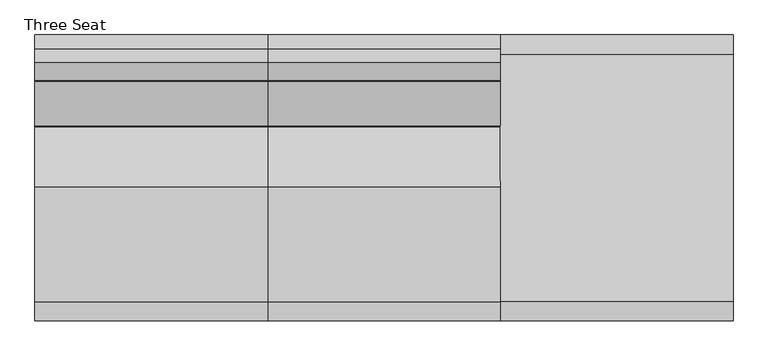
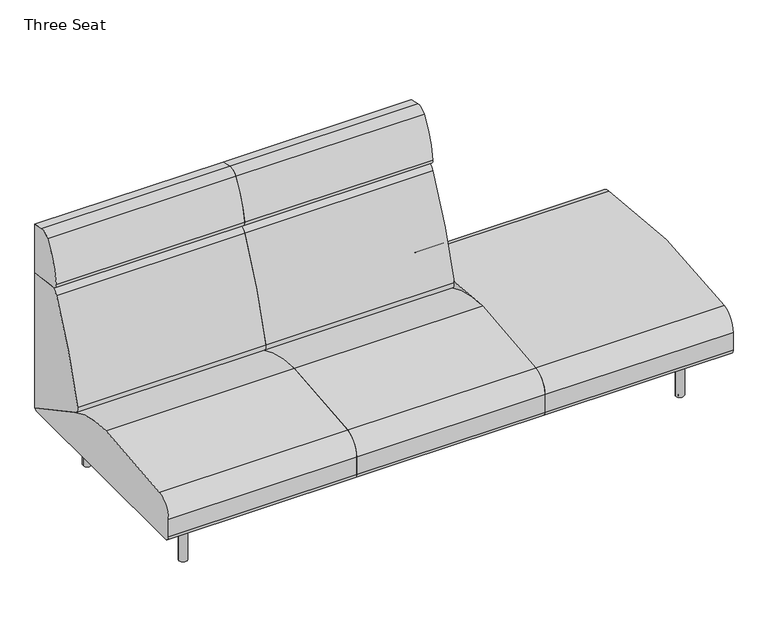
"""IFC4 building model written with IfcOpenShell, lengths in millimetres: furniture geometry, Coalesse_AM_Seating_LoungeChair_Sistema_LegBase_ThreeSeat : Three Seat."""

from ifc_helpers import new_model, si_unit, point, frame, frame_2d, origin, origin_with_axes, place, context, project, spatial, polyline, circle_curve, trimmed, segment, composite_curve, outline, extrude, source, transform, mapped, element, save


def three_seat_5b71b5bf(model_context):
    return source(origin(), model_context, "Body", "SweptSolid", [
        extrude(outline(composite_curve([segment(polyline([(459.4795619, 985.4592709), (459.4795619, 780.845009), (327.9700683, 799.327463)]), True, "CONTINUOUS"), segment(trimmed(circle_curve(frame_2d((330.6213159, 818.1920697)), 19.05), [point((327.9700683, 799.327463))], [point((311.7521971, 820.8110119))], False, "CARTESIAN"), True, "CONTINUOUS"), segment(trimmed(circle_curve(frame_2d((679.5815991, 769.7580741)), 371.3554516), [point((311.7521971, 820.8110119))], [point((372.1246101, 978.0249014))], False, "CARTESIAN"), True, "CONTINUOUS"), segment(trimmed(circle_curve(frame_2d((405.8944569, 955.1497055)), 40.7881985), [point((372.1246101, 978.0249014))], [point((414.3748002, 995.046584))], False, "CARTESIAN"), True, "CONTINUOUS"), segment(polyline([(414.3748002, 995.046584), (459.4795619, 985.4592709)]), True, "CONTINUOUS")], self_intersect=False)), frame((-374.8034773, 0.0, 0.0), z_axis=(1.0, 0.0, 0.0), x_axis=(0.0, 1.0, 0.0)), (0.0, 0.0, 1.0), 749.3),
        extrude(outline(composite_curve([segment(polyline([(459.4795619, 780.845009), (459.4795619, 228.1929806)]), True, "CONTINUOUS"), segment(trimmed(circle_curve(frame_2d((191.495971, 228.1929806)), 267.983591), [point((459.4795619, 228.1929806))], [point((458.9860775, 211.937276))], False, "CARTESIAN"), True, "CONTINUOUS"), segment(polyline([(458.9860775, 211.937276), (177.4990556, 364.1028799)]), True, "CONTINUOUS"), segment(trimmed(circle_curve(frame_2d((189.5778307, 386.4470781)), 25.4), [point((177.4990556, 364.1028799))], [point((164.9600055, 392.7018911))], False, "CARTESIAN"), True, "CONTINUOUS"), segment(trimmed(circle_curve(frame_2d((1918.112812, -52.7331923)), 1808.8552115), [point((164.9600055, 392.7018911))], [point((310.2880264, 776.0349508))], False, "CARTESIAN"), True, "CONTINUOUS"), segment(trimmed(circle_curve(frame_2d((344.1537133, 758.5785695)), 38.1), [point((310.2880264, 776.0349508))], [point((349.4562085, 796.3077829))], False, "CARTESIAN"), True, "CONTINUOUS"), segment(polyline([(349.4562085, 796.3077829), (459.4795619, 780.845009)]), True, "CONTINUOUS")], self_intersect=False)), frame((-374.8034773, 0.0, 0.0), z_axis=(1.0, 0.0, 0.0), x_axis=(0.0, 1.0, 0.0)), (0.0, 0.0, 1.0), 749.3),
        extrude(outline(composite_curve([segment(trimmed(circle_curve(frame_2d((-438.9184381, 226.822)), 22.352), [point((-438.9184381, 204.47))], [point((-461.2704381, 226.822))], False, "CARTESIAN"), True, "CONTINUOUS"), segment(polyline([(-461.2704381, 226.822), (-461.2704381, 301.4421993)]), True, "CONTINUOUS"), segment(trimmed(circle_curve(frame_2d((-385.0704381, 301.4421993)), 76.2), [point((-461.2704381, 301.4421993))], [point((-398.9277015, 376.3716077))], False, "CARTESIAN"), True, "CONTINUOUS"), segment(trimmed(circle_curve(frame_2d((2.2103559, -1792.6740646)), 2205.8265729), [point((-398.9277015, 376.3716077))], [point((-31.1968175, 412.8995185))], False, "CARTESIAN"), True, "CONTINUOUS"), segment(trimmed(circle_curve(frame_2d((-24.5128424, -28.3829182)), 441.333054), [point((-31.1968175, 412.8995185))], [point((184.5757008, 360.2774035))], False, "CARTESIAN"), True, "CONTINUOUS"), segment(polyline([(184.5757008, 360.2774035), (458.9860775, 211.937276)]), True, "CONTINUOUS"), segment(trimmed(circle_curve(frame_2d((442.3266309, 226.7871991)), 22.3171991), [point((458.9860775, 211.937276))], [point((442.3266309, 204.47))], False, "CARTESIAN"), True, "CONTINUOUS"), segment(polyline([(442.3266309, 204.47), (-438.9184381, 204.47)]), True, "CONTINUOUS")], self_intersect=False)), frame((-374.8034773, 0.0, 0.0), z_axis=(1.0, 0.0, 0.0), x_axis=(0.0, 1.0, 0.0)), (0.0, 0.0, 1.0), 749.3),
        extrude(outline(composite_curve([segment(polyline([(459.4795619, 985.4592709), (459.4795619, 780.845009), (327.9700683, 799.327463)]), True, "CONTINUOUS"), segment(trimmed(circle_curve(frame_2d((330.6213159, 818.1920697)), 19.05), [point((327.9700683, 799.327463))], [point((311.7521971, 820.8110119))], False, "CARTESIAN"), True, "CONTINUOUS"), segment(trimmed(circle_curve(frame_2d((679.5815991, 769.7580741)), 371.3554516), [point((311.7521971, 820.8110119))], [point((372.1246101, 978.0249014))], False, "CARTESIAN"), True, "CONTINUOUS"), segment(trimmed(circle_curve(frame_2d((405.8944569, 955.1497055)), 40.7881985), [point((372.1246101, 978.0249014))], [point((414.3748002, 995.046584))], False, "CARTESIAN"), True, "CONTINUOUS"), segment(polyline([(414.3748002, 995.046584), (459.4795619, 985.4592709)]), True, "CONTINUOUS")], self_intersect=False)), frame((374.4965227, 0.0, 0.0), z_axis=(1.0, 0.0, 0.0), x_axis=(0.0, 1.0, 0.0)), (0.0, 0.0, 1.0), 749.3),
        extrude(outline(composite_curve([segment(polyline([(459.4795619, 780.845009), (459.4795619, 228.1929806)]), True, "CONTINUOUS"), segment(trimmed(circle_curve(frame_2d((191.495971, 228.1929806)), 267.983591), [point((459.4795619, 228.1929806))], [point((458.9860775, 211.937276))], False, "CARTESIAN"), True, "CONTINUOUS"), segment(polyline([(458.9860775, 211.937276), (177.4990556, 364.1028799)]), True, "CONTINUOUS"), segment(trimmed(circle_curve(frame_2d((189.5778307, 386.4470781)), 25.4), [point((177.4990556, 364.1028799))], [point((164.9600055, 392.7018911))], False, "CARTESIAN"), True, "CONTINUOUS"), segment(trimmed(circle_curve(frame_2d((1918.112812, -52.7331923)), 1808.8552115), [point((164.9600055, 392.7018911))], [point((310.2880264, 776.0349508))], False, "CARTESIAN"), True, "CONTINUOUS"), segment(trimmed(circle_curve(frame_2d((344.1537133, 758.5785695)), 38.1), [point((310.2880264, 776.0349508))], [point((349.4562085, 796.3077829))], False, "CARTESIAN"), True, "CONTINUOUS"), segment(polyline([(349.4562085, 796.3077829), (459.4795619, 780.845009)]), True, "CONTINUOUS")], self_intersect=False)), frame((374.4965227, 0.0, 0.0), z_axis=(1.0, 0.0, 0.0), x_axis=(0.0, 1.0, 0.0)), (0.0, 0.0, 1.0), 749.3),
        extrude(outline(composite_curve([segment(trimmed(circle_curve(frame_2d((-438.9184381, 226.822)), 22.352), [point((-438.9184381, 204.47))], [point((-461.2704381, 226.822))], False, "CARTESIAN"), True, "CONTINUOUS"), segment(polyline([(-461.2704381, 226.822), (-461.2704381, 301.4421993)]), True, "CONTINUOUS"), segment(trimmed(circle_curve(frame_2d((-385.0704381, 301.4421993)), 76.2), [point((-461.2704381, 301.4421993))], [point((-398.9277015, 376.3716077))], False, "CARTESIAN"), True, "CONTINUOUS"), segment(trimmed(circle_curve(frame_2d((2.2103559, -1792.6740646)), 2205.8265729), [point((-398.9277015, 376.3716077))], [point((-31.1968175, 412.8995185))], False, "CARTESIAN"), True, "CONTINUOUS"), segment(trimmed(circle_curve(frame_2d((-24.5128424, -28.3829182)), 441.333054), [point((-31.1968175, 412.8995185))], [point((184.5757008, 360.2774035))], False, "CARTESIAN"), True, "CONTINUOUS"), segment(polyline([(184.5757008, 360.2774035), (458.9860775, 211.937276)]), True, "CONTINUOUS"), segment(trimmed(circle_curve(frame_2d((442.3266309, 226.7871991)), 22.3171991), [point((458.9860775, 211.937276))], [point((442.3266309, 204.47))], False, "CARTESIAN"), True, "CONTINUOUS"), segment(polyline([(442.3266309, 204.47), (-438.9184381, 204.47)]), True, "CONTINUOUS")], self_intersect=False)), frame((374.4965227, 0.0, 0.0), z_axis=(1.0, 0.0, 0.0), x_axis=(0.0, 1.0, 0.0)), (0.0, 0.0, 1.0), 749.3),
        extrude(outline(composite_curve([segment(trimmed(circle_curve(frame_2d((-438.9184381, 226.822)), 22.352), [point((-438.9184381, 204.47))], [point((-461.2704381, 226.822))], False, "CARTESIAN"), True, "CONTINUOUS"), segment(polyline([(-461.2704381, 226.822), (-461.2704381, 301.4421993)]), True, "CONTINUOUS"), segment(trimmed(circle_curve(frame_2d((-385.0704381, 301.4421993)), 76.2), [point((-461.2704381, 301.4421993))], [point((-398.9279534, 376.3715612))], False, "CARTESIAN"), True, "CONTINUOUS"), segment(trimmed(circle_curve(frame_2d((-0.3717831, -1778.6727457)), 2191.5891461), [point((-398.9279534, 376.3715612))], [point((397.0993513, 376.5719464))], False, "CARTESIAN"), True, "CONTINUOUS"), segment(trimmed(circle_curve(frame_2d((383.2795619, 301.6356173)), 76.2), [point((397.0993513, 376.5719464))], [point((459.4795619, 301.6356173))], False, "CARTESIAN"), True, "CONTINUOUS"), segment(polyline([(459.4795619, 301.6356173), (459.4795619, 226.7871991)]), True, "CONTINUOUS"), segment(trimmed(circle_curve(frame_2d((437.1623628, 226.7871991)), 22.3171991), [point((459.4795619, 226.7871991))], [point((437.1623628, 204.47))], False, "CARTESIAN"), True, "CONTINUOUS"), segment(polyline([(437.1623628, 204.47), (-438.9184381, 204.47)]), True, "CONTINUOUS")], self_intersect=False)), frame((1123.7965227, 0.0, 0.0), z_axis=(1.0, 0.0, 0.0), x_axis=(0.0, 1.0, 0.0)), (0.0, 0.0, 1.0), 749.3),
        extrude(outline(composite_curve([segment(trimmed(circle_curve(frame_2d((1738.4765227, 335.9943389)), 6.096), [point((1744.5725227, 335.9943389))], [point((1732.3805227, 335.9943389))], False, "CARTESIAN"), True, "CONTINUOUS"), segment(trimmed(circle_curve(frame_2d((1738.4765227, 335.9943389)), 6.096), [point((1732.3805227, 335.9943389))], [point((1744.5725227, 335.9943389))], False, "CARTESIAN"), True, "CONTINUOUS")], self_intersect=False)), origin_with_axes(), (0.0, 0.0, 1.0), 4.3662291),
        extrude(outline(composite_curve([segment(trimmed(circle_curve(frame_2d((1738.4765227, -327.2630889)), 6.096), [point((1744.5725227, -327.2630889))], [point((1732.3805227, -327.2630889))], False, "CARTESIAN"), True, "CONTINUOUS"), segment(trimmed(circle_curve(frame_2d((1738.4765227, -327.2630889)), 6.096), [point((1732.3805227, -327.2630889))], [point((1744.5725227, -327.2630889))], False, "CARTESIAN"), True, "CONTINUOUS")], self_intersect=False)), origin_with_axes(), (0.0, 0.0, 1.0), 4.3662291),
        extrude(outline(composite_curve([segment(polyline([(157.0399209, 1751.056375), (201.7356243, 1751.056375)]), True, "CONTINUOUS"), segment(trimmed(circle_curve(frame_2d((201.7356243, 1748.008375)), 3.048), [point((201.7356243, 1751.056375))], [point((204.7836243, 1748.008375))], False, "CARTESIAN"), True, "CONTINUOUS"), segment(polyline([(204.7836243, 1748.008375), (204.7836243, 1728.666199)]), True, "CONTINUOUS"), segment(trimmed(circle_curve(frame_2d((201.7356243, 1728.666199)), 3.048), [point((204.7836243, 1728.666199))], [point((201.7356243, 1725.618199))], False, "CARTESIAN"), True, "CONTINUOUS"), segment(polyline([(201.7356243, 1725.618199), (157.1249936, 1725.618199)]), True, "CONTINUOUS"), segment(trimmed(circle_curve(frame_2d((157.1249936, 1728.7512718)), 3.1330728), [point((157.1249936, 1725.618199))], [point((153.9919209, 1728.7512718))], False, "CARTESIAN"), True, "CONTINUOUS"), segment(polyline([(153.9919209, 1728.7512718), (153.9919209, 1748.008375)]), True, "CONTINUOUS"), segment(trimmed(circle_curve(frame_2d((157.0399209, 1748.008375)), 3.048), [point((153.9919209, 1748.008375))], [point((157.0399209, 1751.056375))], False, "CARTESIAN"), True, "CONTINUOUS")], self_intersect=False)), frame((0.0, 222.3519802, 0.0), z_axis=(0.0, 1.0, 0.0), x_axis=(0.0, 0.0, 1.0)), (0.0, 0.0, 1.0), 92.6273161),
        extrude(outline(composite_curve([segment(polyline([(157.0399209, 1751.056375), (201.7356243, 1751.056375)]), True, "CONTINUOUS"), segment(trimmed(circle_curve(frame_2d((201.7356243, 1748.008375)), 3.048), [point((201.7356243, 1751.056375))], [point((204.7836243, 1748.008375))], False, "CARTESIAN"), True, "CONTINUOUS"), segment(polyline([(204.7836243, 1748.008375), (204.7836243, 1728.666199)]), True, "CONTINUOUS"), segment(trimmed(circle_curve(frame_2d((201.7356243, 1728.666199)), 3.048), [point((204.7836243, 1728.666199))], [point((201.7356243, 1725.618199))], False, "CARTESIAN"), True, "CONTINUOUS"), segment(polyline([(201.7356243, 1725.618199), (157.1249936, 1725.618199)]), True, "CONTINUOUS"), segment(trimmed(circle_curve(frame_2d((157.1249936, 1728.7512718)), 3.1330728), [point((157.1249936, 1725.618199))], [point((153.9919209, 1728.7512718))], False, "CARTESIAN"), True, "CONTINUOUS"), segment(polyline([(153.9919209, 1728.7512718), (153.9919209, 1748.008375)]), True, "CONTINUOUS"), segment(trimmed(circle_curve(frame_2d((157.0399209, 1748.008375)), 3.048), [point((153.9919209, 1748.008375))], [point((157.0399209, 1751.056375))], False, "CARTESIAN"), True, "CONTINUOUS")], self_intersect=False)), frame((0.0, -314.9792963, 0.0), z_axis=(0.0, 1.0, 0.0), x_axis=(0.0, 0.0, 1.0)), (0.0, 0.0, 1.0), 92.6273161),
        extrude(outline(composite_curve([segment(trimmed(circle_curve(frame_2d((176.3356606, 1715.8259944)), 3.048), [point((179.3836606, 1715.8259944))], [point((176.3356606, 1712.7779944))], False, "CARTESIAN"), True, "CONTINUOUS"), segment(polyline([(176.3356606, 1712.7779944), (157.0399209, 1712.7779944)]), True, "CONTINUOUS"), segment(trimmed(circle_curve(frame_2d((157.0399209, 1715.8259944)), 3.048), [point((157.0399209, 1712.7779944))], [point((153.9919209, 1715.8259944))], False, "CARTESIAN"), True, "CONTINUOUS"), segment(polyline([(153.9919209, 1715.8259944), (153.9919209, 1760.5135501)]), True, "CONTINUOUS"), segment(trimmed(circle_curve(frame_2d((157.056462, 1760.5135501)), 3.0645412), [point((153.9919209, 1760.5135501))], [point((157.056462, 1763.5780913))], False, "CARTESIAN"), True, "CONTINUOUS"), segment(polyline([(157.056462, 1763.5780913), (176.3356606, 1763.5780913)]), True, "CONTINUOUS"), segment(trimmed(circle_curve(frame_2d((176.3356606, 1760.5300913)), 3.048), [point((176.3356606, 1763.5780913))], [point((179.3836606, 1760.5300913))], False, "CARTESIAN"), True, "CONTINUOUS"), segment(polyline([(179.3836606, 1760.5300913), (179.3836606, 1715.8259944)]), True, "CONTINUOUS")], self_intersect=False)), frame((0.0, -222.3519802, 0.0), z_axis=(0.0, 1.0, 0.0), x_axis=(0.0, 0.0, 1.0)), (0.0, 0.0, 1.0), 444.7039604),
        extrude(outline(composite_curve([segment(trimmed(circle_curve(frame_2d((1738.4765227, 332.3095741)), 16.51), [point((1754.9865227, 332.3095741))], [point((1721.9665227, 332.3095741))], False, "CARTESIAN"), True, "CONTINUOUS"), segment(trimmed(circle_curve(frame_2d((1738.4765227, 332.3095741)), 16.51), [point((1721.9665227, 332.3095741))], [point((1754.9865227, 332.3095741))], False, "CARTESIAN"), True, "CONTINUOUS")], self_intersect=False)), frame((0.0, 0.0, 4.3662291), z_axis=(0.0, 0.0, 1.0), x_axis=(1.0, 0.0, 0.0)), (0.0, 0.0, 1.0), 200.1037709),
        extrude(outline(composite_curve([segment(trimmed(circle_curve(frame_2d((1738.0796477, -327.5470741)), 16.51), [point((1754.5896477, -327.5470741))], [point((1721.5696477, -327.5470741))], False, "CARTESIAN"), True, "CONTINUOUS"), segment(trimmed(circle_curve(frame_2d((1738.0796477, -327.5470741)), 16.51), [point((1721.5696477, -327.5470741))], [point((1754.5896477, -327.5470741))], False, "CARTESIAN"), True, "CONTINUOUS")], self_intersect=False)), frame((0.0, 0.0, 4.3662291), z_axis=(0.0, 0.0, 1.0), x_axis=(1.0, 0.0, 0.0)), (0.0, 0.0, 1.0), 200.1037709),
        extrude(outline(composite_curve([segment(trimmed(circle_curve(frame_2d((-240.1834773, 335.9943389)), 6.096), [point((-246.2794773, 335.9943389))], [point((-234.0874773, 335.9943389))], False, "CARTESIAN"), True, "CONTINUOUS"), segment(trimmed(circle_curve(frame_2d((-240.1834773, 335.9943389)), 6.096), [point((-234.0874773, 335.9943389))], [point((-246.2794773, 335.9943389))], False, "CARTESIAN"), True, "CONTINUOUS")], self_intersect=False)), origin_with_axes(), (0.0, 0.0, 1.0), 4.3662291),
        extrude(outline(composite_curve([segment(trimmed(circle_curve(frame_2d((-240.1834773, -327.2630889)), 6.096), [point((-246.2794773, -327.2630889))], [point((-234.0874773, -327.2630889))], False, "CARTESIAN"), True, "CONTINUOUS"), segment(trimmed(circle_curve(frame_2d((-240.1834773, -327.2630889)), 6.096), [point((-234.0874773, -327.2630889))], [point((-246.2794773, -327.2630889))], False, "CARTESIAN"), True, "CONTINUOUS")], self_intersect=False)), origin_with_axes(), (0.0, 0.0, 1.0), 4.3662291),
        extrude(outline(composite_curve([segment(trimmed(circle_curve(frame_2d((157.0399209, -249.7153296)), 3.048), [point((157.0399209, -252.7633296))], [point((153.9919209, -249.7153296))], False, "CARTESIAN"), True, "CONTINUOUS"), segment(polyline([(153.9919209, -249.7153296), (153.9919209, -230.4582264)]), True, "CONTINUOUS"), segment(trimmed(circle_curve(frame_2d((157.1249936, -230.4582264)), 3.1330728), [point((153.9919209, -230.4582264))], [point((157.1249936, -227.3251537))], False, "CARTESIAN"), True, "CONTINUOUS"), segment(polyline([(157.1249936, -227.3251537), (201.7356243, -227.3251537)]), True, "CONTINUOUS"), segment(trimmed(circle_curve(frame_2d((201.7356243, -230.3731537)), 3.048), [point((201.7356243, -227.3251537))], [point((204.7836243, -230.3731537))], False, "CARTESIAN"), True, "CONTINUOUS"), segment(polyline([(204.7836243, -230.3731537), (204.7836243, -249.7153296)]), True, "CONTINUOUS"), segment(trimmed(circle_curve(frame_2d((201.7356243, -249.7153296)), 3.048), [point((204.7836243, -249.7153296))], [point((201.7356243, -252.7633296))], False, "CARTESIAN"), True, "CONTINUOUS"), segment(polyline([(201.7356243, -252.7633296), (157.0399209, -252.7633296)]), True, "CONTINUOUS")], self_intersect=False)), frame((0.0, 222.3519802, 0.0), z_axis=(0.0, 1.0, 0.0), x_axis=(0.0, 0.0, 1.0)), (0.0, 0.0, 1.0), 92.6273161),
        extrude(outline(composite_curve([segment(trimmed(circle_curve(frame_2d((157.0399209, -249.7153296)), 3.048), [point((157.0399209, -252.7633296))], [point((153.9919209, -249.7153296))], False, "CARTESIAN"), True, "CONTINUOUS"), segment(polyline([(153.9919209, -249.7153296), (153.9919209, -230.4582264)]), True, "CONTINUOUS"), segment(trimmed(circle_curve(frame_2d((157.1249936, -230.4582264)), 3.1330728), [point((153.9919209, -230.4582264))], [point((157.1249936, -227.3251537))], False, "CARTESIAN"), True, "CONTINUOUS"), segment(polyline([(157.1249936, -227.3251537), (201.7356243, -227.3251537)]), True, "CONTINUOUS"), segment(trimmed(circle_curve(frame_2d((201.7356243, -230.3731537)), 3.048), [point((201.7356243, -227.3251537))], [point((204.7836243, -230.3731537))], False, "CARTESIAN"), True, "CONTINUOUS"), segment(polyline([(204.7836243, -230.3731537), (204.7836243, -249.7153296)]), True, "CONTINUOUS"), segment(trimmed(circle_curve(frame_2d((201.7356243, -249.7153296)), 3.048), [point((204.7836243, -249.7153296))], [point((201.7356243, -252.7633296))], False, "CARTESIAN"), True, "CONTINUOUS"), segment(polyline([(201.7356243, -252.7633296), (157.0399209, -252.7633296)]), True, "CONTINUOUS")], self_intersect=False)), frame((0.0, -314.9792963, 0.0), z_axis=(0.0, 1.0, 0.0), x_axis=(0.0, 0.0, 1.0)), (0.0, 0.0, 1.0), 92.6273161),
        extrude(outline(composite_curve([segment(polyline([(179.3836606, -217.532949), (179.3836606, -262.2370459)]), True, "CONTINUOUS"), segment(trimmed(circle_curve(frame_2d((176.3356606, -262.2370459)), 3.048), [point((179.3836606, -262.2370459))], [point((176.3356606, -265.2850459))], False, "CARTESIAN"), True, "CONTINUOUS"), segment(polyline([(176.3356606, -265.2850459), (157.056462, -265.2850459)]), True, "CONTINUOUS"), segment(trimmed(circle_curve(frame_2d((157.056462, -262.2205047)), 3.0645412), [point((157.056462, -265.2850459))], [point((153.9919209, -262.2205047))], False, "CARTESIAN"), True, "CONTINUOUS"), segment(polyline([(153.9919209, -262.2205047), (153.9919209, -217.532949)]), True, "CONTINUOUS"), segment(trimmed(circle_curve(frame_2d((157.0399209, -217.532949)), 3.048), [point((153.9919209, -217.532949))], [point((157.0399209, -214.484949))], False, "CARTESIAN"), True, "CONTINUOUS"), segment(polyline([(157.0399209, -214.484949), (176.3356606, -214.484949)]), True, "CONTINUOUS"), segment(trimmed(circle_curve(frame_2d((176.3356606, -217.532949)), 3.048), [point((176.3356606, -214.484949))], [point((179.3836606, -217.532949))], False, "CARTESIAN"), True, "CONTINUOUS")], self_intersect=False)), frame((0.0, -222.3519802, 0.0), z_axis=(0.0, 1.0, 0.0), x_axis=(0.0, 0.0, 1.0)), (0.0, 0.0, 1.0), 444.7039604),
        extrude(outline(composite_curve([segment(trimmed(circle_curve(frame_2d((-240.1834773, 332.3095741)), 16.51), [point((-256.6934773, 332.3095741))], [point((-223.6734773, 332.3095741))], False, "CARTESIAN"), True, "CONTINUOUS"), segment(trimmed(circle_curve(frame_2d((-240.1834773, 332.3095741)), 16.51), [point((-223.6734773, 332.3095741))], [point((-256.6934773, 332.3095741))], False, "CARTESIAN"), True, "CONTINUOUS")], self_intersect=False)), frame((0.0, 0.0, 4.3662291), z_axis=(0.0, 0.0, 1.0), x_axis=(1.0, 0.0, 0.0)), (0.0, 0.0, 1.0), 200.1037709),
        extrude(outline(composite_curve([segment(trimmed(circle_curve(frame_2d((-239.7866023, -327.5470741)), 16.51), [point((-256.2966023, -327.5470741))], [point((-223.2766023, -327.5470741))], False, "CARTESIAN"), True, "CONTINUOUS"), segment(trimmed(circle_curve(frame_2d((-239.7866023, -327.5470741)), 16.51), [point((-223.2766023, -327.5470741))], [point((-256.2966023, -327.5470741))], False, "CARTESIAN"), True, "CONTINUOUS")], self_intersect=False)), frame((0.0, 0.0, 4.3662291), z_axis=(0.0, 0.0, 1.0), x_axis=(1.0, 0.0, 0.0)), (0.0, 0.0, 1.0), 200.1037709),
    ])


if __name__ == "__main__":
    model = new_model("IFC4")
    model_context = context("Model", 3, world=origin())
    ifc_project = project(units=[si_unit("LENGTHUNIT", "METRE", prefix="MILLI")], contexts=[model_context])
    site = spatial("IfcSite", under=ifc_project)
    building = spatial("IfcBuilding", under=site)
    placement = place(None, origin())
    three_seat_shape = three_seat_5b71b5bf(model_context)
    element("IfcFurniture", 1, ObjectType="Coalesse_AM_Seating_LoungeChair_Sistema_LegBase_ThreeSeat : Three Seat", at=placement, inside=building, context=model_context, shape_type="MappedRepresentation", body=[
        mapped(three_seat_shape, transform((0.0, 0.0, 0.0), x_axis=(1.0, 0.0, 0.0), y_axis=(0.0, 1.0, 0.0), z_axis=(0.0, 0.0, 1.0))),
    ])
    save(model, "model.ifc")
